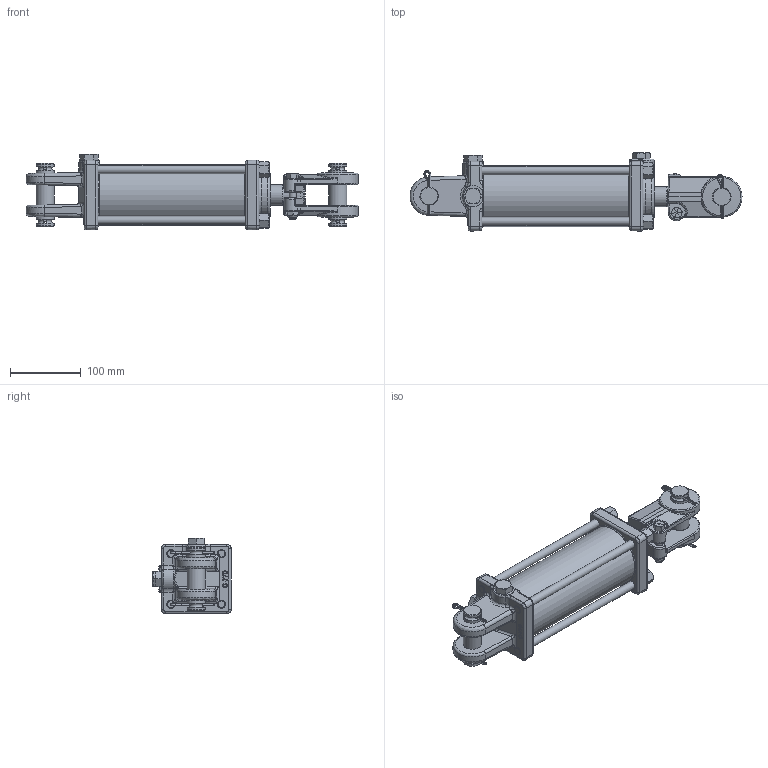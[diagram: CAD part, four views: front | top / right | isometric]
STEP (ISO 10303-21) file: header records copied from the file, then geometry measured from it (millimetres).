
FILE_DESCRIPTION(/* description */ ('TUBE'),/* implementation_level */ '2;1');
FILE_NAME(/* name */ '\\SRVR-ENG\EngSales\SAE-7106.stp',/* time_stamp */ '2013-12-09T15:12:07-06:00',/* author */ ('KneiflD'),/* organization */ (''),/* preprocessor_version */ 'ST-DEVELOPER v15.2',/* originating_system */ 'Autodesk Inventor 2014',/* authorisation */ '');
FILE_SCHEMA (('AUTOMOTIVE_DESIGN { 1 0 10303 214 3 1 1 }'));
Length unit declared in the file: inch
Products named in the file (17): 051508063A; 141500043V; 081500230V; 010500004; 100000422; 170002104; 220000203; 100000423; 071500003V; 220000208; 800005001_10.25; 220000105V; 170201102; 190400001V; 220001504V; 200300040V; SAE-7106
Bounding box: 468.19 x 110.29 x 106.98 mm (x, y, z)
Volume: 1485128.7 mm3; surface area: 365198.1 mm2
Topology: 26 solids, 26 shells, 1135 faces, 2717 edges, 1642 vertices
Faces by surface type: plane 359, bspline 293, cylinder 255, cone 164, torus 45, sphere 19
Full cylindrical faces by diameter (mm): 5.159 x4, 7.798 x1, 7.938 x4, 9.493 x1, 10.414 x2, 10.592 x4, 10.716 x4, 11.43 x4, 13.097 x4, 15.875 x2, 16.764 x3, 17.066 x1, 17.323 x1, 17.501 x3, 18.999 x1, 19.05 x3, 19.126 x1, 21.59 x1, 25.4 x6, 25.781 x4, 28.372 x1, 28.575 x1, 28.651 x2, 31.598 x1, 34.9 x1, 34.925 x1, 57.15 x2, 66.802 x1, 70.561 x2, 75.946 x6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
Entity records: 34030 total; most frequent: CARTESIAN_POINT 14016, ORIENTED_EDGE 4236, DIRECTION 3621, EDGE_CURVE 2118, AXIS2_PLACEMENT_3D 1433, VERTEX_POINT 1353, EDGE_LOOP 1133, ADVANCED_FACE 938
